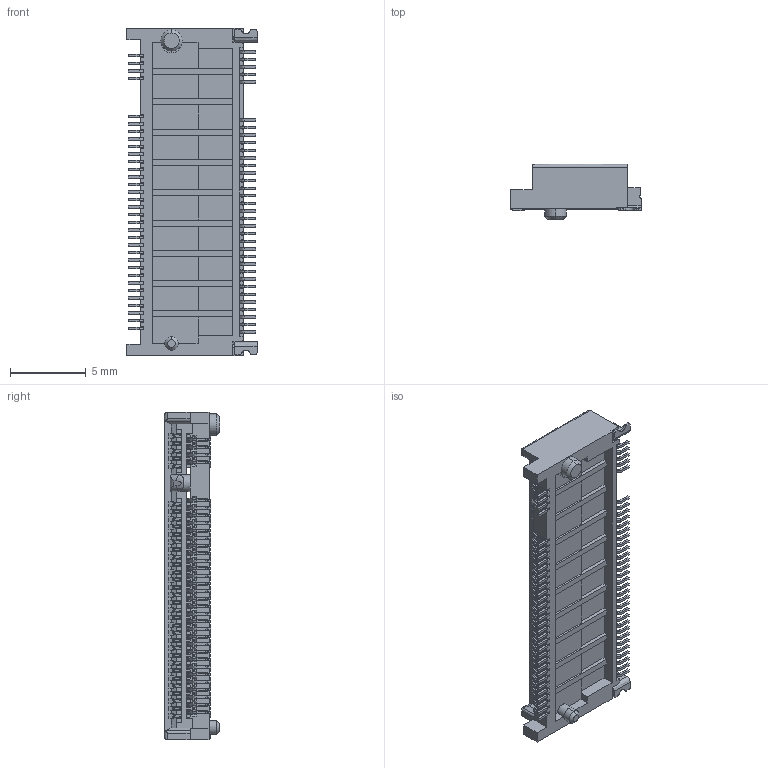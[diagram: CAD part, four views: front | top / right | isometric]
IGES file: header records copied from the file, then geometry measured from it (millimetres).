
Start section:  PTC IGES file: 123a-30m00_c_1.igs
Global section: file name: 123a-30m00_c_1.igs; native system: Creo Parametric by PTC Inc.; preprocessor: 2015080; author: tim.lee; organization: Unknown; date: 20261006.155442; units: millimetre
Bounding box: 8.6 x 3.65 x 21.6 mm (x, y, z)
Surface area: 1386.9 mm2 (no closed solid volume)
Topology: 0 solids, 0 shells, 6891 faces, 40794 edges, 40794 vertices
Faces by surface type: bspline 5465, revolution 1426
